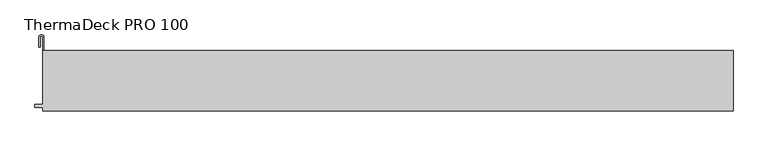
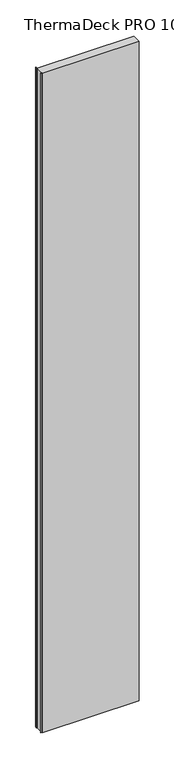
"""IFC4 building model written with IfcOpenShell, lengths in millimetres: plate geometry, Europanels_ThermaDeck PRO_Vt : ThermaDeck PRO 100."""

from ifc_helpers import new_model, si_unit, point, frame_2d, origin, origin_with_axes, place, context, project, spatial, polyline, circle_curve, trimmed, segment, composite_curve, outline, extrude, source, transform, mapped, element, save


def thermadeck_pro_100_954906a2(model_context):
    return source(origin(), model_context, "Body", "SweptSolid", [
        extrude(outline(polyline([(-574.9806387, -50.0), (-574.9806387, -44.0), (-587.943793, -44.0), (-587.943793, -38.8855682), (-574.9806387, -38.8855682), (-574.9806387, 50.0), (563.0253415, 50.0), (563.0253415, -50.0), (-574.9806387, -50.0)])), origin_with_axes(), (0.0, 0.0, 1.0), 8180.0),
        extrude(outline(composite_curve([segment(polyline([(-572.9806387, 72.0237285), (-572.9806387, 50.0), (-574.9806387, 50.0), (-574.9806387, 72.0237285)]), True, "CONTINUOUS"), segment(trimmed(circle_curve(frame_2d((-577.1691524, 72.0237285)), 2.1885138), [point((-574.9806387, 72.0237285))], [point((-579.3576662, 72.0237285))], True, "CARTESIAN"), True, "CONTINUOUS"), segment(polyline([(-579.3576662, 72.0237285), (-579.3576662, 56.0558472), (-581.3576662, 56.0558472), (-581.3576662, 72.0237285)]), True, "CONTINUOUS"), segment(trimmed(circle_curve(frame_2d((-577.1691524, 72.0237285)), 4.1885138), [point((-581.3576662, 72.0237285))], [point((-572.9806387, 72.0237285))], False, "CARTESIAN"), True, "CONTINUOUS")], self_intersect=False)), origin_with_axes(), (0.0, 0.0, 1.0), 8180.0),
    ])


if __name__ == "__main__":
    model = new_model("IFC4")
    model_context = context("Model", 3, world=origin())
    ifc_project = project(units=[si_unit("LENGTHUNIT", "METRE", prefix="MILLI")], contexts=[model_context])
    site = spatial("IfcSite", under=ifc_project)
    building = spatial("IfcBuilding", under=site)
    placement = place(None, origin())
    thermadeck_pro_100_shape = thermadeck_pro_100_954906a2(model_context)
    element("IfcPlate", 1, ObjectType="Europanels_ThermaDeck PRO_Vt : ThermaDeck PRO 100", at=placement, inside=building, context=model_context, shape_type="MappedRepresentation", body=[
        mapped(thermadeck_pro_100_shape, transform((0.0, 0.0, 0.0), x_axis=(1.0, 0.0, 0.0), y_axis=(0.0, 1.0, 0.0), z_axis=(0.0, 0.0, 1.0))),
    ])
    save(model, "model.ifc")
